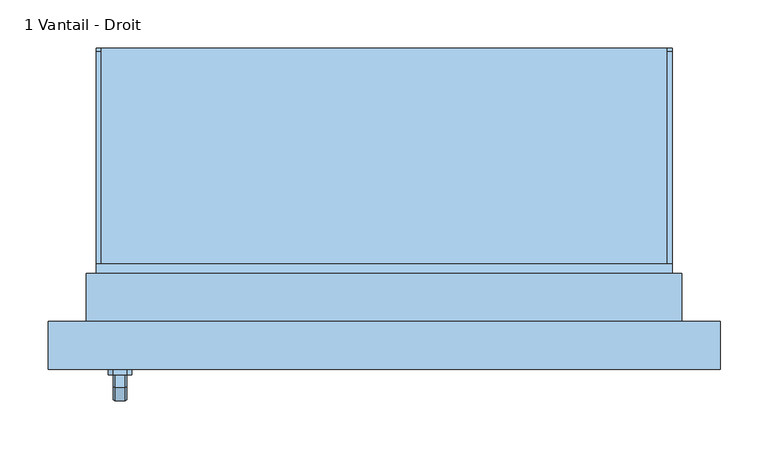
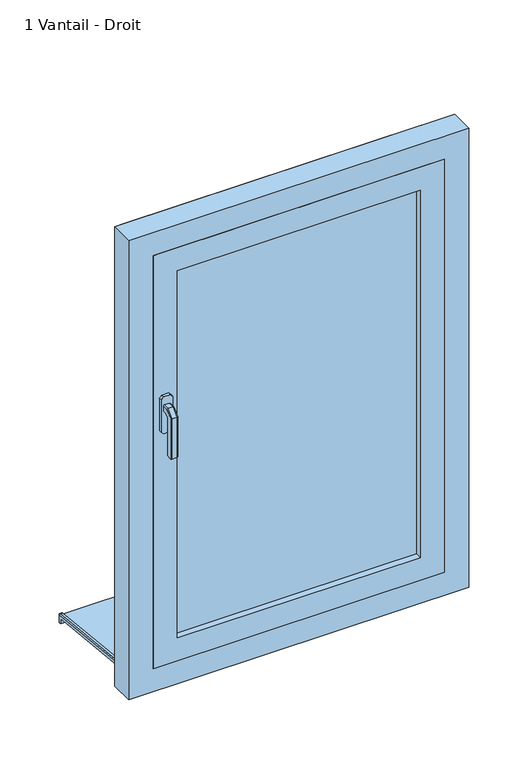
"""IFC4 building model written with IfcOpenShell, lengths in millimetres: window geometry, 1 Vantail - Droit : 0.60 m x 0.95 m - Appui en aluminium."""

from ifc_helpers import new_model, si_unit, point, frame, frame_2d, origin, place, context, project, spatial, polyline, circle_curve, trimmed, segment, composite_curve, outline, extrude, faceted_brep, source, transform, mapped, element, save


def window_1_vantail_droit_5c4c0683(model_context):
    return source(origin(), model_context, "Body", "SolidModel", [
        faceted_brep([(-269.3539903, -166.0, 1422.0339292), (-267.9660708, -166.0, 1420.6460097), (-267.9660708, -166.0, 1409.3323012), (-269.3323012, -166.0, 1407.9660708), (-280.6676988, -166.0, 1407.9660708), (-282.0339292, -166.0, 1409.3323012), (-282.0339292, -166.0, 1420.6460097), (-280.6460097, -166.0, 1422.0339292), (-269.3539903, -178.9135489, 1422.0339292), (-267.9660708, -178.3386538, 1420.6460097), (-267.9660708, -191.6460097, 1407.3386538), (-267.9660708, -191.6460097, 1320.0), (-267.9660708, -180.3323012, 1320.0), (-267.9660708, -180.3323012, 1402.6523623), (-267.9660708, -173.6523623, 1409.3323012), (-269.3323012, -173.0864511, 1407.9660708), (-280.6676988, -173.0864511, 1407.9660708), (-282.0339292, -173.6523623, 1409.3323012), (-282.0339292, -180.3323012, 1402.6523623), (-282.0339292, -180.3323012, 1320.0), (-282.0339292, -191.6460097, 1320.0), (-282.0339292, -191.6460097, 1407.3386538), (-282.0339292, -178.3386538, 1420.6460097), (-280.6460097, -178.9135489, 1422.0339292), (-269.3539903, -193.0339292, 1407.9135489), (-269.3323012, -178.9660708, 1402.0864511), (-280.6676988, -178.9660708, 1402.0864511), (-280.6460097, -193.0339292, 1407.9135489), (-269.3539903, -193.0339292, 1320.0), (-280.6460097, -193.0339292, 1320.0), (-280.6676988, -178.9660708, 1320.0), (-269.3323012, -178.9660708, 1320.0)], [[[0, 1, 2, 3, 4, 5, 6, 7]], [[1, 0, 8, 9]], [[2, 1, 9, 10, 11, 12, 13, 14]], [[3, 2, 14, 15]], [[4, 3, 15, 16]], [[5, 4, 16, 17]], [[6, 5, 17, 18, 19, 20, 21, 22]], [[7, 6, 22, 23]], [[0, 7, 23, 8]], [[9, 8, 24, 10]], [[15, 14, 13, 25]], [[16, 15, 25, 26]], [[17, 16, 26, 18]], [[23, 22, 21, 27]], [[8, 23, 27, 24]], [[28, 29, 20, 19, 30, 31, 12, 11]], [[10, 24, 28, 11]], [[25, 13, 12, 31]], [[26, 25, 31, 30]], [[18, 26, 30, 19]], [[27, 21, 20, 29]], [[24, 27, 29, 28]]]),
        extrude(outline(polyline([(1440.0, -268.0), (1440.0, -282.0), (1435.0, -287.0), (1365.0, -287.0), (1360.0, -282.0), (1360.0, -268.0), (1365.0, -263.0), (1435.0, -263.0), (1440.0, -268.0)])), frame((0.0, -166.0, 0.0), z_axis=(0.0, 1.0, 0.0), x_axis=(0.0, 0.0, 1.0)), (0.0, 0.0, 1.0), 6.0),
        extrude(outline(polyline([(175.0, 763.4536318), (175.0, 747.8979153), (170.0, 748.4234365), (170.0, 758.7239412), (-80.0, 785.0), (-80.0, 800.0), (-75.0, 800.0), (-75.0, 789.7296906), (175.0, 763.4536318)])), frame((-300.0, 0.0, 0.0), z_axis=(1.0, 0.0, 0.0), x_axis=(0.0, 1.0, 0.0)), (0.0, 0.0, 1.0), 600.0),
        extrude(outline(composite_curve([segment(polyline([(175.0, 763.4536318), (-75.0, 789.7296906), (-75.0, 794.757232), (171.4181139, 768.8576446)]), True, "CONTINUOUS"), segment(trimmed(circle_curve(frame_2d((171.0, 764.879557)), 4.0), [point((171.4181139, 768.8576446))], [point((175.0, 764.879557))], False, "CARTESIAN"), True, "CONTINUOUS"), segment(polyline([(175.0, 764.879557), (175.0, 763.4536318)]), True, "CONTINUOUS")], self_intersect=False)), frame((-300.0, 0.0, 0.0), z_axis=(1.0, 0.0, 0.0), x_axis=(0.0, 1.0, 0.0)), (0.0, 0.0, 1.0), 5.0),
        extrude(outline(composite_curve([segment(polyline([(175.0, 763.4536318), (-75.0, 789.7296906), (-75.0, 794.757232), (171.4181139, 768.8576446)]), True, "CONTINUOUS"), segment(trimmed(circle_curve(frame_2d((171.0, 764.879557)), 4.0), [point((171.4181139, 768.8576446))], [point((175.0, 764.879557))], False, "CARTESIAN"), True, "CONTINUOUS"), segment(polyline([(175.0, 764.879557), (175.0, 763.4536318)]), True, "CONTINUOUS")], self_intersect=False)), frame((295.0, 0.0, 0.0), z_axis=(1.0, 0.0, 0.0), x_axis=(0.0, 1.0, 0.0)), (0.0, 0.0, 1.0), 5.0),
        extrude(outline(polyline([(-250.0, -134.0), (250.0, -134.0), (250.0, -146.0), (-250.0, -146.0), (-250.0, -134.0)])), frame((0.0, 0.0, 900.0), z_axis=(0.0, 0.0, 1.0), x_axis=(1.0, 0.0, 0.0)), (0.0, 0.0, 1.0), 800.0),
        extrude(outline(polyline([(850.0, 300.0), (1750.0, 300.0), (1750.0, -300.0), (850.0, -300.0), (850.0, 300.0)]), holes=[polyline([(900.0, -250.0), (1700.0, -250.0), (1700.0, 250.0), (900.0, 250.0), (900.0, -250.0)])]), frame((0.0, -160.0, 0.0), z_axis=(0.0, 1.0, 0.0), x_axis=(0.0, 0.0, 1.0)), (0.0, 0.0, 1.0), 40.0),
        faceted_brep([(-350.0, -160.0, 800.0), (-350.0, -110.0, 800.0), (-300.0, -110.0, 800.0), (-300.0, -60.0, 800.0), (300.0, -60.0, 800.0), (300.0, -110.0, 800.0), (350.0, -110.0, 800.0), (350.0, -160.0, 800.0), (-350.0, -160.0, 1800.0), (-350.0, -110.0, 1800.0), (350.0, -110.0, 1800.0), (300.0, -110.0, 839.3761425), (-300.0, -110.0, 839.3761425), (-285.0, -110.0, 1735.0), (-285.0, -110.0, 865.0), (285.0, -110.0, 865.0), (285.0, -110.0, 1735.0), (-300.0, -50.0, 823.2991909), (-300.0, -50.0, 795.0), (-300.0, -60.0, 795.0), (300.0, -60.0, 795.0), (300.0, -50.0, 795.0), (300.0, -50.0, 823.2991909), (350.0, -160.0, 1800.0), (300.0, -160.0, 1750.0), (300.0, -160.0, 850.0), (-300.0, -160.0, 850.0), (-300.0, -160.0, 1750.0), (-285.0, -120.0, 1735.0), (-285.0, -120.0, 865.0), (285.0, -120.0, 865.0), (285.0, -120.0, 1735.0), (300.0, -120.0, 1750.0), (-300.0, -120.0, 1750.0), (-300.0, -120.0, 850.0), (300.0, -120.0, 850.0)], [[[0, 1, 2, 3, 4, 5, 6, 7]], [[1, 0, 8, 9]], [[1, 9, 10, 6, 5, 11, 12, 2], [13, 14, 15, 16]], [[12, 17, 18, 19, 3, 2]], [[3, 19, 20, 4]], [[4, 20, 21, 22, 11, 5]], [[6, 10, 23, 7]], [[0, 7, 23, 8], [24, 25, 26, 27]], [[13, 28, 29, 14]], [[29, 30, 15, 14]], [[31, 16, 15, 30]], [[17, 12, 11, 22]], [[32, 33, 34, 35], [28, 31, 30, 29]], [[34, 33, 27, 26]], [[26, 25, 35, 34]], [[24, 32, 35, 25]], [[18, 17, 22, 21]], [[19, 18, 21, 20]], [[13, 16, 31, 28]], [[33, 32, 24, 27]], [[10, 9, 8, 23]]]),
        extrude(outline(polyline([(800.0, -310.0), (800.0, -300.0), (1750.0, -300.0), (1750.0, 300.0), (800.0, 300.0), (800.0, 310.0), (1760.0, 310.0), (1760.0, -310.0), (800.0, -310.0)])), frame((0.0, -110.0, 0.0), z_axis=(0.0, 1.0, 0.0), x_axis=(0.0, 0.0, 1.0)), (0.0, 0.0, 1.0), 50.0),
    ])


if __name__ == "__main__":
    model = new_model("IFC4")
    model_context = context("Model", 3, world=origin())
    ifc_project = project(units=[si_unit("LENGTHUNIT", "METRE", prefix="MILLI")], contexts=[model_context])
    site = spatial("IfcSite", under=ifc_project)
    building = spatial("IfcBuilding", under=site)
    placement = place(None, origin())
    window_1_vantail_droit_shape = window_1_vantail_droit_5c4c0683(model_context)
    element("IfcWindow", 1, ObjectType="1 Vantail - Droit : 0.60 m x 0.95 m - Appui en aluminium", at=placement, inside=building, context=model_context, shape_type="MappedRepresentation", body=[
        mapped(window_1_vantail_droit_shape, transform((0.0, 0.0, 0.0), x_axis=(1.0, 0.0, 0.0), y_axis=(0.0, 1.0, 0.0), z_axis=(0.0, 0.0, 1.0))),
    ])
    save(model, "model.ifc")
